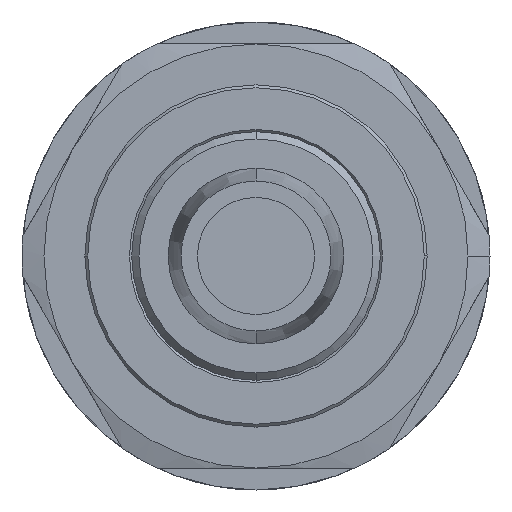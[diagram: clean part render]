
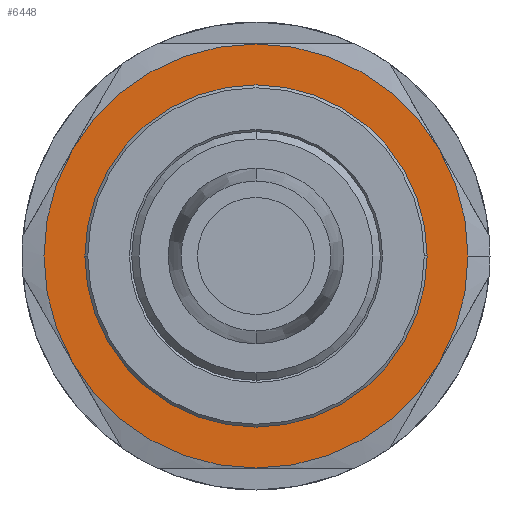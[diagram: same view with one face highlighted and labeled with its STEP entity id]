
A CAD part, front view. The second image highlights one B-rep face of the part: STEP entity #6448.
In plain terms, the highlighted planar face has unit normal (0, -1, 0).
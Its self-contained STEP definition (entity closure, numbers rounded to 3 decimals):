
#17 = DIRECTION ( 'NONE',  ( -1., 0., 0. ) ) ;
#113 = CIRCLE ( 'NONE', #5031, 14.5 ) ;
#332 = DIRECTION ( 'NONE',  ( -1., 0., 0. ) ) ;
#529 = CARTESIAN_POINT ( 'NONE',  ( 11.7, -43.6, 0. ) ) ;
#609 = AXIS2_PLACEMENT_3D ( 'NONE', #3745, #2602, #11847 ) ;
#706 = CARTESIAN_POINT ( 'NONE',  ( -11.7, -43.6, 0. ) ) ;
#764 = AXIS2_PLACEMENT_3D ( 'NONE', #5628, #12558, #17 ) ;
#846 = CIRCLE ( 'NONE', #6353, 14.5 ) ;
#948 = ORIENTED_EDGE ( 'NONE', *, *, #6454, .T. ) ;
#1225 = CARTESIAN_POINT ( 'NONE',  ( 12.557, -43.6, 7.25 ) ) ;
#1357 = DIRECTION ( 'NONE',  ( -1., 0., 0. ) ) ;
#1449 = VERTEX_POINT ( 'NONE', #706 ) ;
#1507 = EDGE_CURVE ( 'NONE', #4027, #6160, #846, .T. ) ;
#2206 = EDGE_LOOP ( 'NONE', ( #6355, #2986 ) ) ;
#2432 = VERTEX_POINT ( 'NONE', #14774 ) ;
#2435 = EDGE_CURVE ( 'NONE', #6160, #9179, #4782, .T. ) ;
#2467 = CARTESIAN_POINT ( 'NONE',  ( 0., -43.6, 0. ) ) ;
#2549 = CIRCLE ( 'NONE', #14424, 14.5 ) ;
#2602 = DIRECTION ( 'NONE',  ( 0., -1., 0. ) ) ;
#2639 = EDGE_LOOP ( 'NONE', ( #11186, #948, #3325, #5008, #13820, #13927, #7062 ) ) ;
#2675 = CARTESIAN_POINT ( 'NONE',  ( 0., -43.6, 0. ) ) ;
#2717 = CARTESIAN_POINT ( 'NONE',  ( -12.557, -43.6, -7.25 ) ) ;
#2865 = VERTEX_POINT ( 'NONE', #13505 ) ;
#2986 = ORIENTED_EDGE ( 'NONE', *, *, #9218, .F. ) ;
#3325 = ORIENTED_EDGE ( 'NONE', *, *, #13790, .T. ) ;
#3407 = CARTESIAN_POINT ( 'NONE',  ( 12.557, -43.6, -7.25 ) ) ;
#3549 = EDGE_CURVE ( 'NONE', #2432, #14379, #2549, .T. ) ;
#3745 = CARTESIAN_POINT ( 'NONE',  ( 0., -43.6, 0. ) ) ;
#3907 = EDGE_CURVE ( 'NONE', #9179, #2432, #113, .T. ) ;
#4027 = VERTEX_POINT ( 'NONE', #3407 ) ;
#4348 = EDGE_CURVE ( 'NONE', #14379, #12362, #7522, .T. ) ;
#4710 = CARTESIAN_POINT ( 'NONE',  ( 0., -43.6, 0. ) ) ;
#4782 = CIRCLE ( 'NONE', #14997, 14.5 ) ;
#4891 = DIRECTION ( 'NONE',  ( 0., -1., 0. ) ) ;
#5008 = ORIENTED_EDGE ( 'NONE', *, *, #1507, .T. ) ;
#5031 = AXIS2_PLACEMENT_3D ( 'NONE', #10083, #8050, #7907 ) ;
#5562 = AXIS2_PLACEMENT_3D ( 'NONE', #14965, #10412, #12474 ) ;
#5628 = CARTESIAN_POINT ( 'NONE',  ( 0., -43.6, 0. ) ) ;
#5742 = DIRECTION ( 'NONE',  ( 0., -1., 0. ) ) ;
#5907 = AXIS2_PLACEMENT_3D ( 'NONE', #13952, #4891, #332 ) ;
#6160 = VERTEX_POINT ( 'NONE', #6373 ) ;
#6267 = CIRCLE ( 'NONE', #5907, 11.7 ) ;
#6353 = AXIS2_PLACEMENT_3D ( 'NONE', #4710, #5742, #13833 ) ;
#6355 = ORIENTED_EDGE ( 'NONE', *, *, #8667, .F. ) ;
#6373 = CARTESIAN_POINT ( 'NONE',  ( 14.5, -43.6, 0. ) ) ;
#6448 = ADVANCED_FACE ( 'NONE', ( #11467, #12385 ), #7894, .T. ) ;
#6454 = EDGE_CURVE ( 'NONE', #12362, #2865, #9865, .T. ) ;
#6649 = CARTESIAN_POINT ( 'NONE',  ( -12.557, -43.6, 7.25 ) ) ;
#7062 = ORIENTED_EDGE ( 'NONE', *, *, #3549, .T. ) ;
#7306 = DIRECTION ( 'NONE',  ( -1., 0., 0. ) ) ;
#7522 = CIRCLE ( 'NONE', #609, 14.5 ) ;
#7761 = DIRECTION ( 'NONE',  ( -1., 0., 0. ) ) ;
#7886 = CARTESIAN_POINT ( 'NONE',  ( 0., -43.6, 0. ) ) ;
#7894 = PLANE ( 'NONE',  #5562 ) ;
#7907 = DIRECTION ( 'NONE',  ( -1., 0., 0. ) ) ;
#8050 = DIRECTION ( 'NONE',  ( 0., -1., 0. ) ) ;
#8327 = DIRECTION ( 'NONE',  ( 0., -1., 0. ) ) ;
#8667 = EDGE_CURVE ( 'NONE', #12460, #1449, #14419, .T. ) ;
#8995 = CARTESIAN_POINT ( 'NONE',  ( 0., -43.6, 0. ) ) ;
#9179 = VERTEX_POINT ( 'NONE', #1225 ) ;
#9218 = EDGE_CURVE ( 'NONE', #1449, #12460, #6267, .T. ) ;
#9865 = CIRCLE ( 'NONE', #13029, 14.5 ) ;
#10083 = CARTESIAN_POINT ( 'NONE',  ( 0., -43.6, 0. ) ) ;
#10342 = DIRECTION ( 'NONE',  ( 0., -1., 0. ) ) ;
#10412 = DIRECTION ( 'NONE',  ( 0., -1., 0. ) ) ;
#11186 = ORIENTED_EDGE ( 'NONE', *, *, #4348, .T. ) ;
#11467 = FACE_BOUND ( 'NONE', #2206, .T. ) ;
#11643 = AXIS2_PLACEMENT_3D ( 'NONE', #8995, #14704, #7761 ) ;
#11847 = DIRECTION ( 'NONE',  ( -1., 0., 0. ) ) ;
#12362 = VERTEX_POINT ( 'NONE', #2717 ) ;
#12385 = FACE_OUTER_BOUND ( 'NONE', #2639, .T. ) ;
#12460 = VERTEX_POINT ( 'NONE', #529 ) ;
#12474 = DIRECTION ( 'NONE',  ( -1., 0., 0. ) ) ;
#12558 = DIRECTION ( 'NONE',  ( 0., -1., 0. ) ) ;
#12591 = CIRCLE ( 'NONE', #11643, 14.5 ) ;
#13029 = AXIS2_PLACEMENT_3D ( 'NONE', #2467, #8327, #1357 ) ;
#13505 = CARTESIAN_POINT ( 'NONE',  ( 0., -43.6, -14.5 ) ) ;
#13790 = EDGE_CURVE ( 'NONE', #2865, #4027, #12591, .T. ) ;
#13820 = ORIENTED_EDGE ( 'NONE', *, *, #2435, .T. ) ;
#13833 = DIRECTION ( 'NONE',  ( -1., 0., 0. ) ) ;
#13927 = ORIENTED_EDGE ( 'NONE', *, *, #3907, .T. ) ;
#13952 = CARTESIAN_POINT ( 'NONE',  ( 0., -43.6, 0. ) ) ;
#14073 = DIRECTION ( 'NONE',  ( 0., -1., 0. ) ) ;
#14379 = VERTEX_POINT ( 'NONE', #6649 ) ;
#14419 = CIRCLE ( 'NONE', #764, 11.7 ) ;
#14424 = AXIS2_PLACEMENT_3D ( 'NONE', #2675, #14073, #7306 ) ;
#14704 = DIRECTION ( 'NONE',  ( 0., -1., 0. ) ) ;
#14774 = CARTESIAN_POINT ( 'NONE',  ( 0., -43.6, 14.5 ) ) ;
#14965 = CARTESIAN_POINT ( 'NONE',  ( 0., -43.6, 0. ) ) ;
#14997 = AXIS2_PLACEMENT_3D ( 'NONE', #7886, #10342, #15001 ) ;
#15001 = DIRECTION ( 'NONE',  ( -1., 0., 0. ) ) ;
